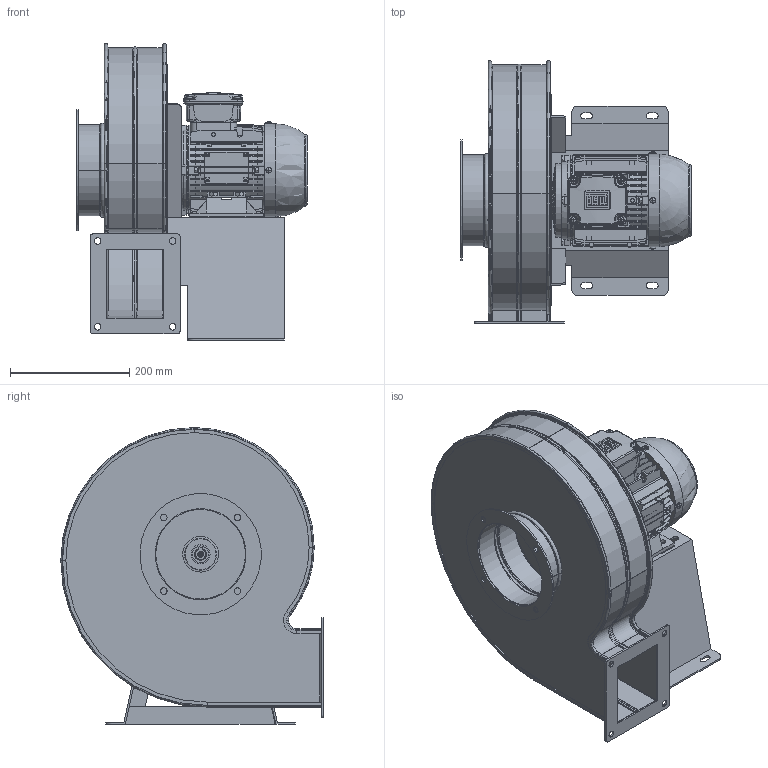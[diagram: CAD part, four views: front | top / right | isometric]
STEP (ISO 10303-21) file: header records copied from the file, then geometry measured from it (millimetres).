
FILE_DESCRIPTION(('FreeCAD Model'),'2;1');
FILE_NAME('/home/maurizio/Documenti/3D/STEP/A/A30 - 80 - RD270.step', '2017-12-10T14:52:04',('Author'),(''), 'Open CASCADE STEP processor 6.8','FreeCAD','Unknown');
FILE_SCHEMA(('AUTOMOTIVE_DESIGN_CC2 { 1 2 10303 214 -1 1 5 4 }'));
Length unit declared in the file: millimetre
Products named in the file (15): ASSEMBLY; 80_TOP_MIR2; CL1A30_MIR; AN130303252_MIR001; CA30-1_Asp_MIR; CA30-2_SQUADRA_MIR; SE1A300080_MIR; D13356008_MIR; CA30-2_FLANGIA_MIR; FASCIA_A30_MIR; CA30LD_MIR_Saldature001; CA30LD_MIR_Saldature; PT1253200_MIR001; SOLID; SHELL
Assembly tree (16 placements, depth 2):
  ASSEMBLY
    80_TOP_MIR2
    CL1A30_MIR
    AN130303252_MIR001  x2
    CA30-1_Asp_MIR
    CA30-2_SQUADRA_MIR
    SE1A300080_MIR
    D13356008_MIR
    CA30-2_FLANGIA_MIR
    FASCIA_A30_MIR
    CA30LD_MIR_Saldature001
    CA30LD_MIR_Saldature
    PT1253200_MIR001  x2
    SOLID
    SHELL
Bounding box: 387.9 x 440.9 x 498.9 mm (x, y, z)
Volume: 5862825.3 mm3; surface area: 2195094.7 mm2
Topology: 15 solids, 22 shells, 2825 faces, 7459 edges, 4817 vertices
Faces by surface type: plane 1933, cylinder 460, bspline 166, cone 123, torus 102, sphere 41
Full cylindrical faces by diameter (mm): 2.2 x4, 5 x1, 6 x19, 6.4 x1, 6.5 x8, 8 x8, 9.5 x7, 10 x4, 11 x18, 18 x1, 18.6 x1, 19 x1, 19.6 x1, 19.95 x2, 20 x1, 20.2 x1, 28 x1, 32 x1, 60 x1, 132 x2, 150.6 x2, 153 x5, 204 x1, 306 x1, 355 x1
Entity records: 294373 total; most frequent: CARTESIAN_POINT 151346, DIRECTION 23631, ORIENTED_EDGE 14834, PCURVE 14834, DEFINITIONAL_REPRESENTATION 14834, LINE 14124, VECTOR 14124, EDGE_CURVE 7417
